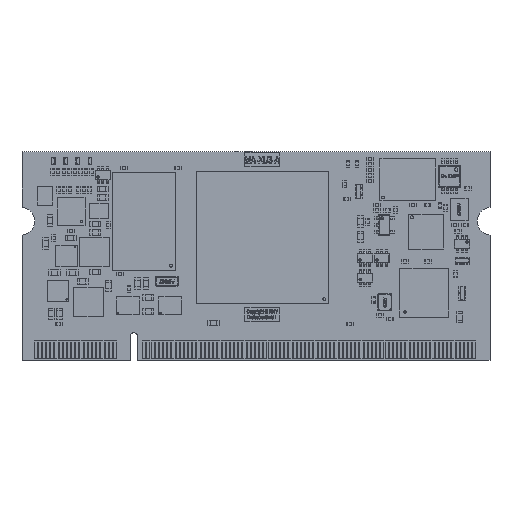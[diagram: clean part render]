
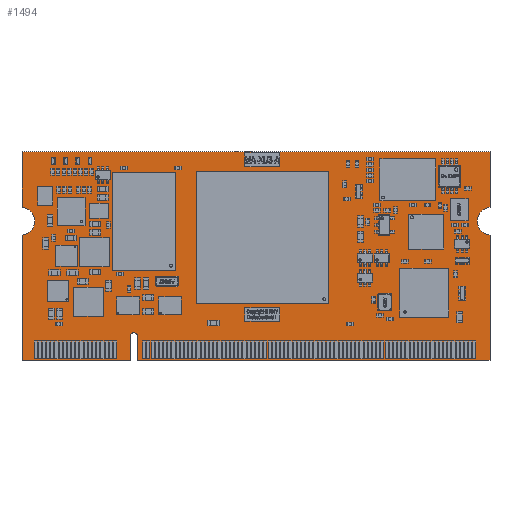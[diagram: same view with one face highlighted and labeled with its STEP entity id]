
A CAD part, top view. The second image highlights one B-rep face of the part: STEP entity #1494.
In plain terms, the highlighted planar face has unit normal (0, 0, 1).
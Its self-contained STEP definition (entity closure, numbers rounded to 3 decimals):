
#1103 = VERTEX_POINT('',#1104);
#1104 = CARTESIAN_POINT('',(0.,0.,0.));
#1110 = EDGE_CURVE('',#1103,#1111,#1113,.T.);
#1111 = VERTEX_POINT('',#1112);
#1112 = CARTESIAN_POINT('',(15.55,0.,0.));
#1113 = LINE('',#1114,#1115);
#1114 = CARTESIAN_POINT('',(0.,0.,0.));
#1115 = VECTOR('',#1116,1.);
#1116 = DIRECTION('',(1.,0.,0.));
#1141 = EDGE_CURVE('',#1111,#1142,#1144,.T.);
#1142 = VERTEX_POINT('',#1143);
#1143 = CARTESIAN_POINT('',(15.55,3.5,0.));
#1144 = LINE('',#1145,#1146);
#1145 = CARTESIAN_POINT('',(15.55,0.,0.));
#1146 = VECTOR('',#1147,1.);
#1147 = DIRECTION('',(0.,1.,0.));
#1172 = EDGE_CURVE('',#1142,#1173,#1175,.T.);
#1173 = VERTEX_POINT('',#1174);
#1174 = CARTESIAN_POINT('',(16.55,3.5,0.));
#1175 = CIRCLE('',#1176,0.5);
#1176 = AXIS2_PLACEMENT_3D('',#1177,#1178,#1179);
#1177 = CARTESIAN_POINT('',(16.05,3.5,0.));
#1178 = DIRECTION('',(0.,0.,-1.));
#1179 = DIRECTION('',(-1.,0.,0.));
#1205 = EDGE_CURVE('',#1173,#1206,#1208,.T.);
#1206 = VERTEX_POINT('',#1207);
#1207 = CARTESIAN_POINT('',(16.55,0.,0.));
#1208 = LINE('',#1209,#1210);
#1209 = CARTESIAN_POINT('',(16.55,3.5,0.));
#1210 = VECTOR('',#1211,1.);
#1211 = DIRECTION('',(0.,-1.,0.));
#1236 = EDGE_CURVE('',#1206,#1237,#1239,.T.);
#1237 = VERTEX_POINT('',#1238);
#1238 = CARTESIAN_POINT('',(67.2,0.,0.));
#1239 = LINE('',#1240,#1241);
#1240 = CARTESIAN_POINT('',(16.55,0.,0.));
#1241 = VECTOR('',#1242,1.);
#1242 = DIRECTION('',(1.,0.,0.));
#1267 = EDGE_CURVE('',#1237,#1268,#1270,.T.);
#1268 = VERTEX_POINT('',#1269);
#1269 = CARTESIAN_POINT('',(67.2,18.,0.));
#1270 = LINE('',#1271,#1272);
#1271 = CARTESIAN_POINT('',(67.2,0.,0.));
#1272 = VECTOR('',#1273,1.);
#1273 = DIRECTION('',(0.,1.,0.));
#1298 = EDGE_CURVE('',#1268,#1299,#1301,.T.);
#1299 = VERTEX_POINT('',#1300);
#1300 = CARTESIAN_POINT('',(67.2,22.,0.));
#1301 = CIRCLE('',#1302,2.01);
#1302 = AXIS2_PLACEMENT_3D('',#1303,#1304,#1305);
#1303 = CARTESIAN_POINT('',(67.4,20.,0.));
#1304 = DIRECTION('',(0.,0.,-1.));
#1305 = DIRECTION('',(-0.099,-0.995,0.));
#1331 = EDGE_CURVE('',#1299,#1332,#1334,.T.);
#1332 = VERTEX_POINT('',#1333);
#1333 = CARTESIAN_POINT('',(67.2,30.,0.));
#1334 = LINE('',#1335,#1336);
#1335 = CARTESIAN_POINT('',(67.2,22.,0.));
#1336 = VECTOR('',#1337,1.);
#1337 = DIRECTION('',(0.,1.,0.));
#1362 = EDGE_CURVE('',#1332,#1363,#1365,.T.);
#1363 = VERTEX_POINT('',#1364);
#1364 = CARTESIAN_POINT('',(0.,30.,0.));
#1365 = LINE('',#1366,#1367);
#1366 = CARTESIAN_POINT('',(67.2,30.,0.));
#1367 = VECTOR('',#1368,1.);
#1368 = DIRECTION('',(-1.,0.,0.));
#1393 = EDGE_CURVE('',#1363,#1394,#1396,.T.);
#1394 = VERTEX_POINT('',#1395);
#1395 = CARTESIAN_POINT('',(0.,22.,0.));
#1396 = LINE('',#1397,#1398);
#1397 = CARTESIAN_POINT('',(0.,30.,0.));
#1398 = VECTOR('',#1399,1.);
#1399 = DIRECTION('',(0.,-1.,0.));
#1424 = EDGE_CURVE('',#1394,#1425,#1427,.T.);
#1425 = VERTEX_POINT('',#1426);
#1426 = CARTESIAN_POINT('',(0.,18.,0.));
#1427 = CIRCLE('',#1428,2.01);
#1428 = AXIS2_PLACEMENT_3D('',#1429,#1430,#1431);
#1429 = CARTESIAN_POINT('',(-0.2,20.,0.));
#1430 = DIRECTION('',(0.,0.,-1.));
#1431 = DIRECTION('',(0.099,0.995,0.));
#1457 = EDGE_CURVE('',#1425,#1103,#1458,.T.);
#1458 = LINE('',#1459,#1460);
#1459 = CARTESIAN_POINT('',(0.,18.,0.));
#1460 = VECTOR('',#1461,1.);
#1461 = DIRECTION('',(0.,-1.,0.));
#1494 = ADVANCED_FACE('',(#1495),#1509,.F.);
#1495 = FACE_BOUND('',#1496,.T.);
#1496 = EDGE_LOOP('',(#1497,#1498,#1499,#1500,#1501,#1502,#1503,#1504,
    #1505,#1506,#1507,#1508));
#1497 = ORIENTED_EDGE('',*,*,#1110,.T.);
#1498 = ORIENTED_EDGE('',*,*,#1141,.T.);
#1499 = ORIENTED_EDGE('',*,*,#1172,.T.);
#1500 = ORIENTED_EDGE('',*,*,#1205,.T.);
#1501 = ORIENTED_EDGE('',*,*,#1236,.T.);
#1502 = ORIENTED_EDGE('',*,*,#1267,.T.);
#1503 = ORIENTED_EDGE('',*,*,#1298,.T.);
#1504 = ORIENTED_EDGE('',*,*,#1331,.T.);
#1505 = ORIENTED_EDGE('',*,*,#1362,.T.);
#1506 = ORIENTED_EDGE('',*,*,#1393,.T.);
#1507 = ORIENTED_EDGE('',*,*,#1424,.T.);
#1508 = ORIENTED_EDGE('',*,*,#1457,.T.);
#1509 = PLANE('',#1510);
#1510 = AXIS2_PLACEMENT_3D('',#1511,#1512,#1513);
#1511 = CARTESIAN_POINT('',(0.,0.,0.));
#1512 = DIRECTION('',(0.,0.,-1.));
#1513 = DIRECTION('',(-1.,0.,0.));
